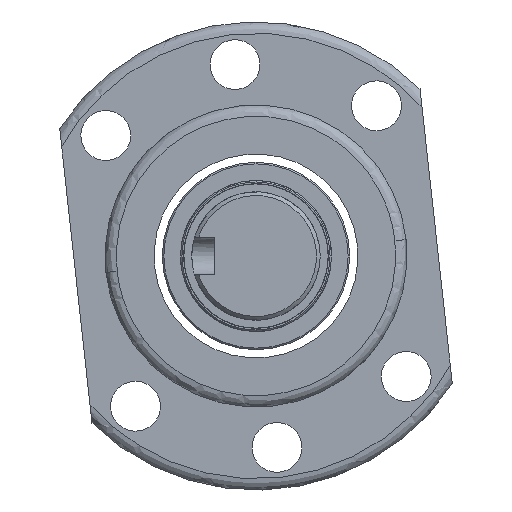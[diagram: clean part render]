
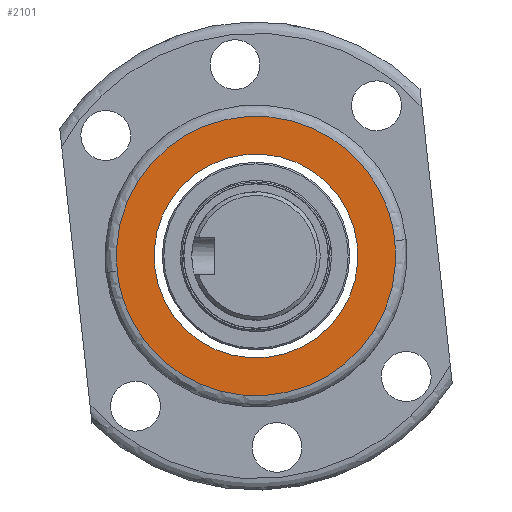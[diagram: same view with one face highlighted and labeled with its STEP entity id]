
A CAD part, left-side view. The second image highlights one B-rep face of the part: STEP entity #2101.
In plain terms, the highlighted planar face has unit normal (-1, 0, 0).
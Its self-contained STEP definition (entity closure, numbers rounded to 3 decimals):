
#122 = AXIS2_PLACEMENT_3D ( 'NONE', #2107, #5534, #6145 ) ;
#256 = CARTESIAN_POINT ( 'NONE',  ( 628.258, 908.348, 1232.891 ) ) ;
#262 = CARTESIAN_POINT ( 'NONE',  ( 628.258, 889.888, 1234.106 ) ) ;
#336 = EDGE_CURVE ( 'NONE', #7768, #7643, #4437, .T. ) ;
#377 = AXIS2_PLACEMENT_3D ( 'NONE', #3513, #5455, #7506 ) ;
#888 = PLANE ( 'NONE',  #377 ) ;
#923 = CARTESIAN_POINT ( 'NONE',  ( 628.258, 868.998, 1198.401 ) ) ;
#987 = CARTESIAN_POINT ( 'NONE',  ( 628.258, 889.001, 1220.635 ) ) ;
#2101 = ADVANCED_FACE ( 'NONE', ( #2837, #8065 ), #888, .T. ) ;
#2107 = CARTESIAN_POINT ( 'NONE',  ( 628.258, 889.888, 1234.106 ) ) ;
#2191 = DIRECTION ( 'NONE',  ( 1., 0., 0. ) ) ;
#2358 = CARTESIAN_POINT ( 'NONE',  ( 628.258, 873.857, 1272.241 ) ) ;
#2372 = EDGE_CURVE ( 'NONE', #4029, #5628, #6160, .T. ) ;
#2837 = FACE_BOUND ( 'NONE', #7548, .T. ) ;
#2954 = CARTESIAN_POINT ( 'NONE',  ( 628.258, 908.348, 1232.891 ) ) ;
#3414 =( BOUNDED_CURVE ( )  B_SPLINE_CURVE ( 3, ( #2954, #5576, #2358, #8234 ),
 .UNSPECIFIED., .F., .F. ) 
 B_SPLINE_CURVE_WITH_KNOTS ( ( 4, 4 ),
 ( 0., 1. ),
 .UNSPECIFIED. ) 
 CURVE ( )  GEOMETRIC_REPRESENTATION_ITEM ( )  RATIONAL_B_SPLINE_CURVE ( ( 1., 0.333, 0.333, 1. ) ) 
 REPRESENTATION_ITEM ( '' )  );
#3464 = CARTESIAN_POINT ( 'NONE',  ( 628.258, 905.918, 1195.971 ) ) ;
#3513 = CARTESIAN_POINT ( 'NONE',  ( 628.258, 907.35, 1232.957 ) ) ;
#3539 = ORIENTED_EDGE ( 'NONE', *, *, #8185, .T. ) ;
#4029 = VERTEX_POINT ( 'NONE', #6363 ) ;
#4437 = CIRCLE ( 'NONE', #6645, 13.5 ) ;
#4488 = ORIENTED_EDGE ( 'NONE', *, *, #7496, .F. ) ;
#4498 = CARTESIAN_POINT ( 'NONE',  ( 628.258, 890.774, 1247.577 ) ) ;
#5455 = DIRECTION ( 'NONE',  ( -1., 0., 0. ) ) ;
#5534 = DIRECTION ( 'NONE',  ( 1., 0., 0. ) ) ;
#5576 = CARTESIAN_POINT ( 'NONE',  ( 628.258, 910.777, 1269.811 ) ) ;
#5628 = VERTEX_POINT ( 'NONE', #256 ) ;
#5830 = EDGE_LOOP ( 'NONE', ( #4488, #8036 ) ) ;
#6145 = DIRECTION ( 'NONE',  ( 0., 0.066, 0.998 ) ) ;
#6160 =( BOUNDED_CURVE ( )  B_SPLINE_CURVE ( 3, ( #8062, #923, #3464, #6805 ),
 .UNSPECIFIED., .F., .F. ) 
 B_SPLINE_CURVE_WITH_KNOTS ( ( 4, 4 ),
 ( 0., 1. ),
 .UNSPECIFIED. ) 
 CURVE ( )  GEOMETRIC_REPRESENTATION_ITEM ( )  RATIONAL_B_SPLINE_CURVE ( ( 1., 0.333, 0.333, 1. ) ) 
 REPRESENTATION_ITEM ( '' )  );
#6293 = CIRCLE ( 'NONE', #122, 13.5 ) ;
#6363 = CARTESIAN_POINT ( 'NONE',  ( 628.258, 871.427, 1235.321 ) ) ;
#6645 = AXIS2_PLACEMENT_3D ( 'NONE', #262, #2191, #8278 ) ;
#6687 = ORIENTED_EDGE ( 'NONE', *, *, #336, .T. ) ;
#6805 = CARTESIAN_POINT ( 'NONE',  ( 628.258, 908.348, 1232.891 ) ) ;
#7496 = EDGE_CURVE ( 'NONE', #5628, #4029, #3414, .T. ) ;
#7506 = DIRECTION ( 'NONE',  ( 0., 0.066, 0.998 ) ) ;
#7548 = EDGE_LOOP ( 'NONE', ( #3539, #6687 ) ) ;
#7643 = VERTEX_POINT ( 'NONE', #4498 ) ;
#7768 = VERTEX_POINT ( 'NONE', #987 ) ;
#8036 = ORIENTED_EDGE ( 'NONE', *, *, #2372, .F. ) ;
#8062 = CARTESIAN_POINT ( 'NONE',  ( 628.258, 871.427, 1235.321 ) ) ;
#8065 = FACE_OUTER_BOUND ( 'NONE', #5830, .T. ) ;
#8185 = EDGE_CURVE ( 'NONE', #7643, #7768, #6293, .T. ) ;
#8234 = CARTESIAN_POINT ( 'NONE',  ( 628.258, 871.427, 1235.321 ) ) ;
#8278 = DIRECTION ( 'NONE',  ( 0., 0.066, 0.998 ) ) ;
